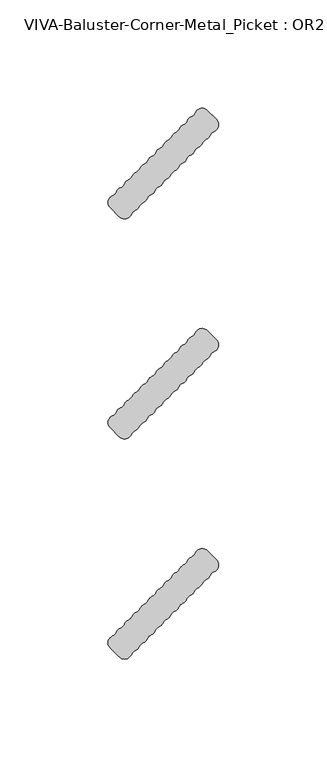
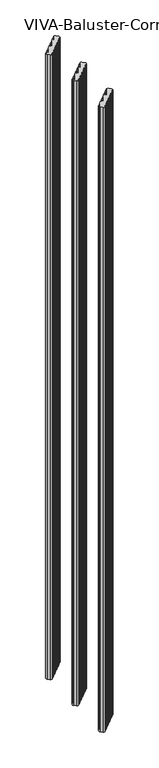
"""IFC4 building model written with IfcOpenShell, lengths in millimetres: railing geometry, VIVA-Baluster-Corner-Metal_Picket : OR2."""

from ifc_helpers import new_model, si_unit, point, frame, frame_2d, origin, place, context, project, spatial, polyline, circle_curve, trimmed, segment, composite_curve, outline, extrude, source, transform, mapped, element, save


def viva_baluster_corner_metal_picket_or2_e6a287f3(model_context):
    return source(origin(), model_context, "Body", "SweptSolid", [
        extrude(outline(composite_curve([segment(polyline([(54.5821964, 81.8019365), (58.7012229, 77.68291)]), True, "CONTINUOUS"), segment(trimmed(circle_curve(frame_2d((56.2706081, 75.2522952)), 3.4374084), [point((58.7012229, 77.68291))], [point((57.614445, 72.0884559))], False, "CARTESIAN"), True, "CONTINUOUS"), segment(trimmed(circle_curve(frame_2d((58.958282, 68.9246166)), 3.4374084), [point((57.614445, 72.0884559))], [point((55.7944427, 70.2684536))], True, "CARTESIAN"), True, "CONTINUOUS"), segment(trimmed(circle_curve(frame_2d((52.6306034, 71.6122905)), 3.4374084), [point((55.7944427, 70.2684536))], [point((53.9744404, 68.4484513))], False, "CARTESIAN"), True, "CONTINUOUS"), segment(trimmed(circle_curve(frame_2d((55.3182774, 65.284612)), 3.4374084), [point((53.9744404, 68.4484513))], [point((52.1544381, 66.6284489))], True, "CARTESIAN"), True, "CONTINUOUS"), segment(trimmed(circle_curve(frame_2d((48.9905988, 67.9722859)), 3.4374084), [point((52.1544381, 66.6284489))], [point((50.3344358, 64.8084466))], False, "CARTESIAN"), True, "CONTINUOUS"), segment(trimmed(circle_curve(frame_2d((51.6782727, 61.6446073)), 3.4374084), [point((50.3344358, 64.8084466))], [point((48.5144334, 62.9884443))], True, "CARTESIAN"), True, "CONTINUOUS"), segment(trimmed(circle_curve(frame_2d((45.3505942, 64.3322813)), 3.4374084), [point((48.5144334, 62.9884443))], [point((46.6944311, 61.168442))], False, "CARTESIAN"), True, "CONTINUOUS"), segment(trimmed(circle_curve(frame_2d((48.0382681, 58.0046027)), 3.4374084), [point((46.6944311, 61.168442))], [point((44.8744288, 59.3484397))], True, "CARTESIAN"), True, "CONTINUOUS"), segment(trimmed(circle_curve(frame_2d((41.7105895, 60.6922766)), 3.4374084), [point((44.8744288, 59.3484397))], [point((43.0544265, 57.5284373))], False, "CARTESIAN"), True, "CONTINUOUS"), segment(trimmed(circle_curve(frame_2d((44.3982634, 54.3645981)), 3.4374084), [point((43.0544265, 57.5284373))], [point((41.2344242, 55.708435))], True, "CARTESIAN"), True, "CONTINUOUS"), segment(trimmed(circle_curve(frame_2d((38.0705849, 57.052272)), 3.4374084), [point((41.2344242, 55.708435))], [point((39.4144219, 53.8884327))], False, "CARTESIAN"), True, "CONTINUOUS"), segment(trimmed(circle_curve(frame_2d((40.7582588, 50.7245934)), 3.4374084), [point((39.4144219, 53.8884327))], [point((37.5944195, 52.0684304))], True, "CARTESIAN"), True, "CONTINUOUS"), segment(trimmed(circle_curve(frame_2d((34.4305803, 53.4122674)), 3.4374084), [point((37.5944195, 52.0684304))], [point((35.7744172, 50.2484281))], False, "CARTESIAN"), True, "CONTINUOUS"), segment(trimmed(circle_curve(frame_2d((37.1182542, 47.0845888)), 3.4374084), [point((35.7744172, 50.2484281))], [point((33.9544149, 48.4284258))], True, "CARTESIAN"), True, "CONTINUOUS"), segment(trimmed(circle_curve(frame_2d((30.7905756, 49.7722627)), 3.4374084), [point((33.9544149, 48.4284258))], [point((32.1344126, 46.6084234))], False, "CARTESIAN"), True, "CONTINUOUS"), segment(trimmed(circle_curve(frame_2d((33.4782495, 43.4445842)), 3.4374084), [point((32.1344126, 46.6084234))], [point((30.3144103, 44.7884211))], True, "CARTESIAN"), True, "CONTINUOUS"), segment(trimmed(circle_curve(frame_2d((27.150571, 46.1322581)), 3.4374084), [point((30.3144103, 44.7884211))], [point((28.494408, 42.9684188))], False, "CARTESIAN"), True, "CONTINUOUS"), segment(trimmed(circle_curve(frame_2d((29.8382449, 39.8045795)), 3.4374084), [point((28.494408, 42.9684188))], [point((26.6744056, 41.1484165))], True, "CARTESIAN"), True, "CONTINUOUS"), segment(trimmed(circle_curve(frame_2d((23.5105664, 42.4922535)), 3.4374084), [point((26.6744056, 41.1484165))], [point((24.8544033, 39.3284142))], False, "CARTESIAN"), True, "CONTINUOUS"), segment(trimmed(circle_curve(frame_2d((26.1982403, 36.1645749)), 3.4374084), [point((24.8544033, 39.3284142))], [point((23.034401, 37.5084119))], True, "CARTESIAN"), True, "CONTINUOUS"), segment(trimmed(circle_curve(frame_2d((19.8705617, 38.8522488)), 3.4374084), [point((23.034401, 37.5084119))], [point((21.2143987, 35.6884095))], False, "CARTESIAN"), True, "CONTINUOUS"), segment(trimmed(circle_curve(frame_2d((22.5582356, 32.5245703)), 3.4374084), [point((21.2143987, 35.6884095))], [point((19.3943964, 33.8684072))], True, "CARTESIAN"), True, "CONTINUOUS"), segment(trimmed(circle_curve(frame_2d((16.2305571, 35.2122442)), 3.4374084), [point((19.3943964, 33.8684072))], [point((13.7999423, 32.7816294))], False, "CARTESIAN"), True, "CONTINUOUS"), segment(polyline([(13.7999423, 32.7816294), (9.6809158, 36.9006559)]), True, "CONTINUOUS"), segment(trimmed(circle_curve(frame_2d((12.1115306, 39.3312707)), 3.4374084), [point((9.6809158, 36.9006559))], [point((10.7676936, 42.49511))], False, "CARTESIAN"), True, "CONTINUOUS"), segment(trimmed(circle_curve(frame_2d((9.4238567, 45.6589492)), 3.4374084), [point((10.7676936, 42.49511))], [point((12.587696, 44.3151123))], True, "CARTESIAN"), True, "CONTINUOUS"), segment(trimmed(circle_curve(frame_2d((15.7515352, 42.9712753)), 3.4374084), [point((12.587696, 44.3151123))], [point((14.4076983, 46.1351146))], False, "CARTESIAN"), True, "CONTINUOUS"), segment(trimmed(circle_curve(frame_2d((13.0638613, 49.2989539)), 3.4374084), [point((14.4076983, 46.1351146))], [point((16.2277006, 47.9551169))], True, "CARTESIAN"), True, "CONTINUOUS"), segment(trimmed(circle_curve(frame_2d((19.3915399, 46.6112799)), 3.4374084), [point((16.2277006, 47.9551169))], [point((18.0477029, 49.7751192))], False, "CARTESIAN"), True, "CONTINUOUS"), segment(trimmed(circle_curve(frame_2d((16.7038659, 52.9389585)), 3.4374084), [point((18.0477029, 49.7751192))], [point((19.8677052, 51.5951215))], True, "CARTESIAN"), True, "CONTINUOUS"), segment(trimmed(circle_curve(frame_2d((23.0315445, 50.2512846)), 3.4374084), [point((19.8677052, 51.5951215))], [point((21.6877075, 53.4151239))], False, "CARTESIAN"), True, "CONTINUOUS"), segment(trimmed(circle_curve(frame_2d((20.3438706, 56.5789631)), 3.4374084), [point((21.6877075, 53.4151239))], [point((23.5077099, 55.2351262))], True, "CARTESIAN"), True, "CONTINUOUS"), segment(trimmed(circle_curve(frame_2d((26.6715491, 53.8912892)), 3.4374084), [point((23.5077099, 55.2351262))], [point((25.3277122, 57.0551285))], False, "CARTESIAN"), True, "CONTINUOUS"), segment(trimmed(circle_curve(frame_2d((23.9838752, 60.2189678)), 3.4374084), [point((25.3277122, 57.0551285))], [point((27.1477145, 58.8751308))], True, "CARTESIAN"), True, "CONTINUOUS"), segment(trimmed(circle_curve(frame_2d((30.3115538, 57.5312939)), 3.4374084), [point((27.1477145, 58.8751308))], [point((28.9677168, 60.6951331))], False, "CARTESIAN"), True, "CONTINUOUS"), segment(trimmed(circle_curve(frame_2d((27.6238798, 63.8589724)), 3.4374084), [point((28.9677168, 60.6951331))], [point((30.7877191, 62.5151354))], True, "CARTESIAN"), True, "CONTINUOUS"), segment(trimmed(circle_curve(frame_2d((33.9515584, 61.1712985)), 3.4374084), [point((30.7877191, 62.5151354))], [point((32.6077214, 64.3351378))], False, "CARTESIAN"), True, "CONTINUOUS"), segment(trimmed(circle_curve(frame_2d((31.2638845, 67.498977)), 3.4374084), [point((32.6077214, 64.3351378))], [point((34.4277238, 66.1551401))], True, "CARTESIAN"), True, "CONTINUOUS"), segment(trimmed(circle_curve(frame_2d((37.591563, 64.8113031)), 3.4374084), [point((34.4277238, 66.1551401))], [point((36.2477261, 67.9751424))], False, "CARTESIAN"), True, "CONTINUOUS"), segment(trimmed(circle_curve(frame_2d((34.9038891, 71.1389817)), 3.4374084), [point((36.2477261, 67.9751424))], [point((38.0677284, 69.7951447))], True, "CARTESIAN"), True, "CONTINUOUS"), segment(trimmed(circle_curve(frame_2d((41.2315677, 68.4513078)), 3.4374084), [point((38.0677284, 69.7951447))], [point((39.8877307, 71.615147))], False, "CARTESIAN"), True, "CONTINUOUS"), segment(trimmed(circle_curve(frame_2d((38.5438938, 74.7789863)), 3.4374084), [point((39.8877307, 71.615147))], [point((41.707733, 73.4351493))], True, "CARTESIAN"), True, "CONTINUOUS"), segment(trimmed(circle_curve(frame_2d((44.8715723, 72.0913124)), 3.4374084), [point((41.707733, 73.4351493))], [point((43.5277353, 75.2551517))], False, "CARTESIAN"), True, "CONTINUOUS"), segment(trimmed(circle_curve(frame_2d((42.1838984, 78.4189909)), 3.4374084), [point((43.5277353, 75.2551517))], [point((45.3477377, 77.075154))], True, "CARTESIAN"), True, "CONTINUOUS"), segment(trimmed(circle_curve(frame_2d((48.5115769, 75.731317)), 3.4374084), [point((45.3477377, 77.075154))], [point((47.16774, 78.8951563))], False, "CARTESIAN"), True, "CONTINUOUS"), segment(trimmed(circle_curve(frame_2d((45.823903, 82.0589956)), 3.4374084), [point((47.16774, 78.8951563))], [point((48.9877423, 80.7151586))], True, "CARTESIAN"), True, "CONTINUOUS"), segment(trimmed(circle_curve(frame_2d((52.1515816, 79.3713217)), 3.4374084), [point((48.9877423, 80.7151586))], [point((54.5821964, 81.8019365))], False, "CARTESIAN"), True, "CONTINUOUS")], self_intersect=False)), frame((0.0, 0.0, -245.8945017), z_axis=(0.0, 0.0, 1.0), x_axis=(1.0, 0.0, 0.0)), (0.0, 0.0, 1.0), 1465.0945017),
        extrude(outline(composite_curve([segment(polyline([(54.5821964, 183.4019365), (58.7012229, 179.28291)]), True, "CONTINUOUS"), segment(trimmed(circle_curve(frame_2d((56.2706081, 176.8522952)), 3.4374084), [point((58.7012229, 179.28291))], [point((57.614445, 173.6884559))], False, "CARTESIAN"), True, "CONTINUOUS"), segment(trimmed(circle_curve(frame_2d((58.958282, 170.5246166)), 3.4374084), [point((57.614445, 173.6884559))], [point((55.7944427, 171.8684536))], True, "CARTESIAN"), True, "CONTINUOUS"), segment(trimmed(circle_curve(frame_2d((52.6306034, 173.2122905)), 3.4374084), [point((55.7944427, 171.8684536))], [point((53.9744404, 170.0484513))], False, "CARTESIAN"), True, "CONTINUOUS"), segment(trimmed(circle_curve(frame_2d((55.3182774, 166.884612)), 3.4374084), [point((53.9744404, 170.0484513))], [point((52.1544381, 168.2284489))], True, "CARTESIAN"), True, "CONTINUOUS"), segment(trimmed(circle_curve(frame_2d((48.9905988, 169.5722859)), 3.4374084), [point((52.1544381, 168.2284489))], [point((50.3344358, 166.4084466))], False, "CARTESIAN"), True, "CONTINUOUS"), segment(trimmed(circle_curve(frame_2d((51.6782727, 163.2446073)), 3.4374084), [point((50.3344358, 166.4084466))], [point((48.5144334, 164.5884443))], True, "CARTESIAN"), True, "CONTINUOUS"), segment(trimmed(circle_curve(frame_2d((45.3505942, 165.9322813)), 3.4374084), [point((48.5144334, 164.5884443))], [point((46.6944311, 162.768442))], False, "CARTESIAN"), True, "CONTINUOUS"), segment(trimmed(circle_curve(frame_2d((48.0382681, 159.6046027)), 3.4374084), [point((46.6944311, 162.768442))], [point((44.8744288, 160.9484397))], True, "CARTESIAN"), True, "CONTINUOUS"), segment(trimmed(circle_curve(frame_2d((41.7105895, 162.2922766)), 3.4374084), [point((44.8744288, 160.9484397))], [point((43.0544265, 159.1284373))], False, "CARTESIAN"), True, "CONTINUOUS"), segment(trimmed(circle_curve(frame_2d((44.3982634, 155.9645981)), 3.4374084), [point((43.0544265, 159.1284373))], [point((41.2344242, 157.308435))], True, "CARTESIAN"), True, "CONTINUOUS"), segment(trimmed(circle_curve(frame_2d((38.0705849, 158.652272)), 3.4374084), [point((41.2344242, 157.308435))], [point((39.4144219, 155.4884327))], False, "CARTESIAN"), True, "CONTINUOUS"), segment(trimmed(circle_curve(frame_2d((40.7582588, 152.3245934)), 3.4374084), [point((39.4144219, 155.4884327))], [point((37.5944195, 153.6684304))], True, "CARTESIAN"), True, "CONTINUOUS"), segment(trimmed(circle_curve(frame_2d((34.4305803, 155.0122674)), 3.4374084), [point((37.5944195, 153.6684304))], [point((35.7744172, 151.8484281))], False, "CARTESIAN"), True, "CONTINUOUS"), segment(trimmed(circle_curve(frame_2d((37.1182542, 148.6845888)), 3.4374084), [point((35.7744172, 151.8484281))], [point((33.9544149, 150.0284258))], True, "CARTESIAN"), True, "CONTINUOUS"), segment(trimmed(circle_curve(frame_2d((30.7905756, 151.3722627)), 3.4374084), [point((33.9544149, 150.0284258))], [point((32.1344126, 148.2084234))], False, "CARTESIAN"), True, "CONTINUOUS"), segment(trimmed(circle_curve(frame_2d((33.4782495, 145.0445842)), 3.4374084), [point((32.1344126, 148.2084234))], [point((30.3144103, 146.3884211))], True, "CARTESIAN"), True, "CONTINUOUS"), segment(trimmed(circle_curve(frame_2d((27.150571, 147.7322581)), 3.4374084), [point((30.3144103, 146.3884211))], [point((28.494408, 144.5684188))], False, "CARTESIAN"), True, "CONTINUOUS"), segment(trimmed(circle_curve(frame_2d((29.8382449, 141.4045795)), 3.4374084), [point((28.494408, 144.5684188))], [point((26.6744056, 142.7484165))], True, "CARTESIAN"), True, "CONTINUOUS"), segment(trimmed(circle_curve(frame_2d((23.5105664, 144.0922535)), 3.4374084), [point((26.6744056, 142.7484165))], [point((24.8544033, 140.9284142))], False, "CARTESIAN"), True, "CONTINUOUS"), segment(trimmed(circle_curve(frame_2d((26.1982403, 137.7645749)), 3.4374084), [point((24.8544033, 140.9284142))], [point((23.034401, 139.1084119))], True, "CARTESIAN"), True, "CONTINUOUS"), segment(trimmed(circle_curve(frame_2d((19.8705617, 140.4522488)), 3.4374084), [point((23.034401, 139.1084119))], [point((21.2143987, 137.2884095))], False, "CARTESIAN"), True, "CONTINUOUS"), segment(trimmed(circle_curve(frame_2d((22.5582356, 134.1245703)), 3.4374084), [point((21.2143987, 137.2884095))], [point((19.3943964, 135.4684072))], True, "CARTESIAN"), True, "CONTINUOUS"), segment(trimmed(circle_curve(frame_2d((16.2305571, 136.8122442)), 3.4374084), [point((19.3943964, 135.4684072))], [point((13.7999423, 134.3816294))], False, "CARTESIAN"), True, "CONTINUOUS"), segment(polyline([(13.7999423, 134.3816294), (9.6809158, 138.5006559)]), True, "CONTINUOUS"), segment(trimmed(circle_curve(frame_2d((12.1115306, 140.9312707)), 3.4374084), [point((9.6809158, 138.5006559))], [point((10.7676936, 144.09511))], False, "CARTESIAN"), True, "CONTINUOUS"), segment(trimmed(circle_curve(frame_2d((9.4238567, 147.2589492)), 3.4374084), [point((10.7676936, 144.09511))], [point((12.587696, 145.9151123))], True, "CARTESIAN"), True, "CONTINUOUS"), segment(trimmed(circle_curve(frame_2d((15.7515352, 144.5712753)), 3.4374084), [point((12.587696, 145.9151123))], [point((14.4076983, 147.7351146))], False, "CARTESIAN"), True, "CONTINUOUS"), segment(trimmed(circle_curve(frame_2d((13.0638613, 150.8989539)), 3.4374084), [point((14.4076983, 147.7351146))], [point((16.2277006, 149.5551169))], True, "CARTESIAN"), True, "CONTINUOUS"), segment(trimmed(circle_curve(frame_2d((19.3915399, 148.2112799)), 3.4374084), [point((16.2277006, 149.5551169))], [point((18.0477029, 151.3751192))], False, "CARTESIAN"), True, "CONTINUOUS"), segment(trimmed(circle_curve(frame_2d((16.7038659, 154.5389585)), 3.4374084), [point((18.0477029, 151.3751192))], [point((19.8677052, 153.1951215))], True, "CARTESIAN"), True, "CONTINUOUS"), segment(trimmed(circle_curve(frame_2d((23.0315445, 151.8512846)), 3.4374084), [point((19.8677052, 153.1951215))], [point((21.6877075, 155.0151239))], False, "CARTESIAN"), True, "CONTINUOUS"), segment(trimmed(circle_curve(frame_2d((20.3438706, 158.1789631)), 3.4374084), [point((21.6877075, 155.0151239))], [point((23.5077099, 156.8351262))], True, "CARTESIAN"), True, "CONTINUOUS"), segment(trimmed(circle_curve(frame_2d((26.6715491, 155.4912892)), 3.4374084), [point((23.5077099, 156.8351262))], [point((25.3277122, 158.6551285))], False, "CARTESIAN"), True, "CONTINUOUS"), segment(trimmed(circle_curve(frame_2d((23.9838752, 161.8189678)), 3.4374084), [point((25.3277122, 158.6551285))], [point((27.1477145, 160.4751308))], True, "CARTESIAN"), True, "CONTINUOUS"), segment(trimmed(circle_curve(frame_2d((30.3115538, 159.1312939)), 3.4374084), [point((27.1477145, 160.4751308))], [point((28.9677168, 162.2951331))], False, "CARTESIAN"), True, "CONTINUOUS"), segment(trimmed(circle_curve(frame_2d((27.6238798, 165.4589724)), 3.4374084), [point((28.9677168, 162.2951331))], [point((30.7877191, 164.1151354))], True, "CARTESIAN"), True, "CONTINUOUS"), segment(trimmed(circle_curve(frame_2d((33.9515584, 162.7712985)), 3.4374084), [point((30.7877191, 164.1151354))], [point((32.6077214, 165.9351378))], False, "CARTESIAN"), True, "CONTINUOUS"), segment(trimmed(circle_curve(frame_2d((31.2638845, 169.098977)), 3.4374084), [point((32.6077214, 165.9351378))], [point((34.4277238, 167.7551401))], True, "CARTESIAN"), True, "CONTINUOUS"), segment(trimmed(circle_curve(frame_2d((37.591563, 166.4113031)), 3.4374084), [point((34.4277238, 167.7551401))], [point((36.2477261, 169.5751424))], False, "CARTESIAN"), True, "CONTINUOUS"), segment(trimmed(circle_curve(frame_2d((34.9038891, 172.7389817)), 3.4374084), [point((36.2477261, 169.5751424))], [point((38.0677284, 171.3951447))], True, "CARTESIAN"), True, "CONTINUOUS"), segment(trimmed(circle_curve(frame_2d((41.2315677, 170.0513078)), 3.4374084), [point((38.0677284, 171.3951447))], [point((39.8877307, 173.215147))], False, "CARTESIAN"), True, "CONTINUOUS"), segment(trimmed(circle_curve(frame_2d((38.5438938, 176.3789863)), 3.4374084), [point((39.8877307, 173.215147))], [point((41.707733, 175.0351493))], True, "CARTESIAN"), True, "CONTINUOUS"), segment(trimmed(circle_curve(frame_2d((44.8715723, 173.6913124)), 3.4374084), [point((41.707733, 175.0351493))], [point((43.5277353, 176.8551517))], False, "CARTESIAN"), True, "CONTINUOUS"), segment(trimmed(circle_curve(frame_2d((42.1838984, 180.0189909)), 3.4374084), [point((43.5277353, 176.8551517))], [point((45.3477377, 178.675154))], True, "CARTESIAN"), True, "CONTINUOUS"), segment(trimmed(circle_curve(frame_2d((48.5115769, 177.331317)), 3.4374084), [point((45.3477377, 178.675154))], [point((47.16774, 180.4951563))], False, "CARTESIAN"), True, "CONTINUOUS"), segment(trimmed(circle_curve(frame_2d((45.823903, 183.6589956)), 3.4374084), [point((47.16774, 180.4951563))], [point((48.9877423, 182.3151586))], True, "CARTESIAN"), True, "CONTINUOUS"), segment(trimmed(circle_curve(frame_2d((52.1515816, 180.9713217)), 3.4374084), [point((48.9877423, 182.3151586))], [point((54.5821964, 183.4019365))], False, "CARTESIAN"), True, "CONTINUOUS")], self_intersect=False)), frame((0.0, 0.0, -245.8945017), z_axis=(0.0, 0.0, 1.0), x_axis=(1.0, 0.0, 0.0)), (0.0, 0.0, 1.0), 1465.0945017),
        extrude(outline(composite_curve([segment(polyline([(54.5821964, 285.0019365), (58.7012229, 280.88291)]), True, "CONTINUOUS"), segment(trimmed(circle_curve(frame_2d((56.2706081, 278.4522952)), 3.4374084), [point((58.7012229, 280.88291))], [point((57.614445, 275.2884559))], False, "CARTESIAN"), True, "CONTINUOUS"), segment(trimmed(circle_curve(frame_2d((58.958282, 272.1246166)), 3.4374084), [point((57.614445, 275.2884559))], [point((55.7944427, 273.4684536))], True, "CARTESIAN"), True, "CONTINUOUS"), segment(trimmed(circle_curve(frame_2d((52.6306034, 274.8122905)), 3.4374084), [point((55.7944427, 273.4684536))], [point((53.9744404, 271.6484513))], False, "CARTESIAN"), True, "CONTINUOUS"), segment(trimmed(circle_curve(frame_2d((55.3182774, 268.484612)), 3.4374084), [point((53.9744404, 271.6484513))], [point((52.1544381, 269.8284489))], True, "CARTESIAN"), True, "CONTINUOUS"), segment(trimmed(circle_curve(frame_2d((48.9905988, 271.1722859)), 3.4374084), [point((52.1544381, 269.8284489))], [point((50.3344358, 268.0084466))], False, "CARTESIAN"), True, "CONTINUOUS"), segment(trimmed(circle_curve(frame_2d((51.6782727, 264.8446073)), 3.4374084), [point((50.3344358, 268.0084466))], [point((48.5144334, 266.1884443))], True, "CARTESIAN"), True, "CONTINUOUS"), segment(trimmed(circle_curve(frame_2d((45.3505942, 267.5322813)), 3.4374084), [point((48.5144334, 266.1884443))], [point((46.6944311, 264.368442))], False, "CARTESIAN"), True, "CONTINUOUS"), segment(trimmed(circle_curve(frame_2d((48.0382681, 261.2046027)), 3.4374084), [point((46.6944311, 264.368442))], [point((44.8744288, 262.5484397))], True, "CARTESIAN"), True, "CONTINUOUS"), segment(trimmed(circle_curve(frame_2d((41.7105895, 263.8922766)), 3.4374084), [point((44.8744288, 262.5484397))], [point((43.0544265, 260.7284373))], False, "CARTESIAN"), True, "CONTINUOUS"), segment(trimmed(circle_curve(frame_2d((44.3982634, 257.5645981)), 3.4374084), [point((43.0544265, 260.7284373))], [point((41.2344242, 258.908435))], True, "CARTESIAN"), True, "CONTINUOUS"), segment(trimmed(circle_curve(frame_2d((38.0705849, 260.252272)), 3.4374084), [point((41.2344242, 258.908435))], [point((39.4144219, 257.0884327))], False, "CARTESIAN"), True, "CONTINUOUS"), segment(trimmed(circle_curve(frame_2d((40.7582588, 253.9245934)), 3.4374084), [point((39.4144219, 257.0884327))], [point((37.5944195, 255.2684304))], True, "CARTESIAN"), True, "CONTINUOUS"), segment(trimmed(circle_curve(frame_2d((34.4305803, 256.6122674)), 3.4374084), [point((37.5944195, 255.2684304))], [point((35.7744172, 253.4484281))], False, "CARTESIAN"), True, "CONTINUOUS"), segment(trimmed(circle_curve(frame_2d((37.1182542, 250.2845888)), 3.4374084), [point((35.7744172, 253.4484281))], [point((33.9544149, 251.6284258))], True, "CARTESIAN"), True, "CONTINUOUS"), segment(trimmed(circle_curve(frame_2d((30.7905756, 252.9722627)), 3.4374084), [point((33.9544149, 251.6284258))], [point((32.1344126, 249.8084234))], False, "CARTESIAN"), True, "CONTINUOUS"), segment(trimmed(circle_curve(frame_2d((33.4782495, 246.6445842)), 3.4374084), [point((32.1344126, 249.8084234))], [point((30.3144103, 247.9884211))], True, "CARTESIAN"), True, "CONTINUOUS"), segment(trimmed(circle_curve(frame_2d((27.150571, 249.3322581)), 3.4374084), [point((30.3144103, 247.9884211))], [point((28.494408, 246.1684188))], False, "CARTESIAN"), True, "CONTINUOUS"), segment(trimmed(circle_curve(frame_2d((29.8382449, 243.0045795)), 3.4374084), [point((28.494408, 246.1684188))], [point((26.6744056, 244.3484165))], True, "CARTESIAN"), True, "CONTINUOUS"), segment(trimmed(circle_curve(frame_2d((23.5105664, 245.6922535)), 3.4374084), [point((26.6744056, 244.3484165))], [point((24.8544033, 242.5284142))], False, "CARTESIAN"), True, "CONTINUOUS"), segment(trimmed(circle_curve(frame_2d((26.1982403, 239.3645749)), 3.4374084), [point((24.8544033, 242.5284142))], [point((23.034401, 240.7084119))], True, "CARTESIAN"), True, "CONTINUOUS"), segment(trimmed(circle_curve(frame_2d((19.8705617, 242.0522488)), 3.4374084), [point((23.034401, 240.7084119))], [point((21.2143987, 238.8884095))], False, "CARTESIAN"), True, "CONTINUOUS"), segment(trimmed(circle_curve(frame_2d((22.5582356, 235.7245703)), 3.4374084), [point((21.2143987, 238.8884095))], [point((19.3943964, 237.0684072))], True, "CARTESIAN"), True, "CONTINUOUS"), segment(trimmed(circle_curve(frame_2d((16.2305571, 238.4122442)), 3.4374084), [point((19.3943964, 237.0684072))], [point((13.7999423, 235.9816294))], False, "CARTESIAN"), True, "CONTINUOUS"), segment(polyline([(13.7999423, 235.9816294), (9.6809158, 240.1006559)]), True, "CONTINUOUS"), segment(trimmed(circle_curve(frame_2d((12.1115306, 242.5312707)), 3.4374084), [point((9.6809158, 240.1006559))], [point((10.7676936, 245.69511))], False, "CARTESIAN"), True, "CONTINUOUS"), segment(trimmed(circle_curve(frame_2d((9.4238567, 248.8589492)), 3.4374084), [point((10.7676936, 245.69511))], [point((12.587696, 247.5151123))], True, "CARTESIAN"), True, "CONTINUOUS"), segment(trimmed(circle_curve(frame_2d((15.7515352, 246.1712753)), 3.4374084), [point((12.587696, 247.5151123))], [point((14.4076983, 249.3351146))], False, "CARTESIAN"), True, "CONTINUOUS"), segment(trimmed(circle_curve(frame_2d((13.0638613, 252.4989539)), 3.4374084), [point((14.4076983, 249.3351146))], [point((16.2277006, 251.1551169))], True, "CARTESIAN"), True, "CONTINUOUS"), segment(trimmed(circle_curve(frame_2d((19.3915399, 249.8112799)), 3.4374084), [point((16.2277006, 251.1551169))], [point((18.0477029, 252.9751192))], False, "CARTESIAN"), True, "CONTINUOUS"), segment(trimmed(circle_curve(frame_2d((16.7038659, 256.1389585)), 3.4374084), [point((18.0477029, 252.9751192))], [point((19.8677052, 254.7951215))], True, "CARTESIAN"), True, "CONTINUOUS"), segment(trimmed(circle_curve(frame_2d((23.0315445, 253.4512846)), 3.4374084), [point((19.8677052, 254.7951215))], [point((21.6877075, 256.6151239))], False, "CARTESIAN"), True, "CONTINUOUS"), segment(trimmed(circle_curve(frame_2d((20.3438706, 259.7789631)), 3.4374084), [point((21.6877075, 256.6151239))], [point((23.5077099, 258.4351262))], True, "CARTESIAN"), True, "CONTINUOUS"), segment(trimmed(circle_curve(frame_2d((26.6715491, 257.0912892)), 3.4374084), [point((23.5077099, 258.4351262))], [point((25.3277122, 260.2551285))], False, "CARTESIAN"), True, "CONTINUOUS"), segment(trimmed(circle_curve(frame_2d((23.9838752, 263.4189678)), 3.4374084), [point((25.3277122, 260.2551285))], [point((27.1477145, 262.0751308))], True, "CARTESIAN"), True, "CONTINUOUS"), segment(trimmed(circle_curve(frame_2d((30.3115538, 260.7312939)), 3.4374084), [point((27.1477145, 262.0751308))], [point((28.9677168, 263.8951331))], False, "CARTESIAN"), True, "CONTINUOUS"), segment(trimmed(circle_curve(frame_2d((27.6238798, 267.0589724)), 3.4374084), [point((28.9677168, 263.8951331))], [point((30.7877191, 265.7151354))], True, "CARTESIAN"), True, "CONTINUOUS"), segment(trimmed(circle_curve(frame_2d((33.9515584, 264.3712985)), 3.4374084), [point((30.7877191, 265.7151354))], [point((32.6077214, 267.5351378))], False, "CARTESIAN"), True, "CONTINUOUS"), segment(trimmed(circle_curve(frame_2d((31.2638845, 270.698977)), 3.4374084), [point((32.6077214, 267.5351378))], [point((34.4277238, 269.3551401))], True, "CARTESIAN"), True, "CONTINUOUS"), segment(trimmed(circle_curve(frame_2d((37.591563, 268.0113031)), 3.4374084), [point((34.4277238, 269.3551401))], [point((36.2477261, 271.1751424))], False, "CARTESIAN"), True, "CONTINUOUS"), segment(trimmed(circle_curve(frame_2d((34.9038891, 274.3389817)), 3.4374084), [point((36.2477261, 271.1751424))], [point((38.0677284, 272.9951447))], True, "CARTESIAN"), True, "CONTINUOUS"), segment(trimmed(circle_curve(frame_2d((41.2315677, 271.6513078)), 3.4374084), [point((38.0677284, 272.9951447))], [point((39.8877307, 274.815147))], False, "CARTESIAN"), True, "CONTINUOUS"), segment(trimmed(circle_curve(frame_2d((38.5438938, 277.9789863)), 3.4374084), [point((39.8877307, 274.815147))], [point((41.707733, 276.6351493))], True, "CARTESIAN"), True, "CONTINUOUS"), segment(trimmed(circle_curve(frame_2d((44.8715723, 275.2913124)), 3.4374084), [point((41.707733, 276.6351493))], [point((43.5277353, 278.4551517))], False, "CARTESIAN"), True, "CONTINUOUS"), segment(trimmed(circle_curve(frame_2d((42.1838984, 281.6189909)), 3.4374084), [point((43.5277353, 278.4551517))], [point((45.3477377, 280.275154))], True, "CARTESIAN"), True, "CONTINUOUS"), segment(trimmed(circle_curve(frame_2d((48.5115769, 278.931317)), 3.4374084), [point((45.3477377, 280.275154))], [point((47.16774, 282.0951563))], False, "CARTESIAN"), True, "CONTINUOUS"), segment(trimmed(circle_curve(frame_2d((45.823903, 285.2589956)), 3.4374084), [point((47.16774, 282.0951563))], [point((48.9877423, 283.9151586))], True, "CARTESIAN"), True, "CONTINUOUS"), segment(trimmed(circle_curve(frame_2d((52.1515816, 282.5713217)), 3.4374084), [point((48.9877423, 283.9151586))], [point((54.5821964, 285.0019365))], False, "CARTESIAN"), True, "CONTINUOUS")], self_intersect=False)), frame((0.0, 0.0, -245.8945017), z_axis=(0.0, 0.0, 1.0), x_axis=(1.0, 0.0, 0.0)), (0.0, 0.0, 1.0), 1465.0945017),
    ])


if __name__ == "__main__":
    model = new_model("IFC4")
    model_context = context("Model", 3, world=origin())
    ifc_project = project(units=[si_unit("LENGTHUNIT", "METRE", prefix="MILLI")], contexts=[model_context])
    site = spatial("IfcSite", under=ifc_project)
    building = spatial("IfcBuilding", under=site)
    placement = place(None, origin())
    viva_baluster_corner_metal_picket_or2_shape = viva_baluster_corner_metal_picket_or2_e6a287f3(model_context)
    element("IfcRailing", 1, ObjectType="VIVA-Baluster-Corner-Metal_Picket : OR2", at=placement, inside=building, context=model_context, shape_type="MappedRepresentation", body=[
        mapped(viva_baluster_corner_metal_picket_or2_shape, transform((0.0, 0.0, 0.0), x_axis=(1.0, 0.0, 0.0), y_axis=(0.0, 1.0, 0.0), z_axis=(0.0, 0.0, 1.0))),
    ])
    save(model, "model.ifc")
